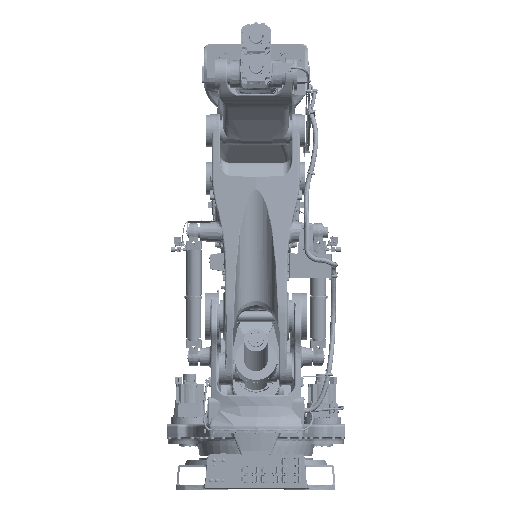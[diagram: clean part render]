
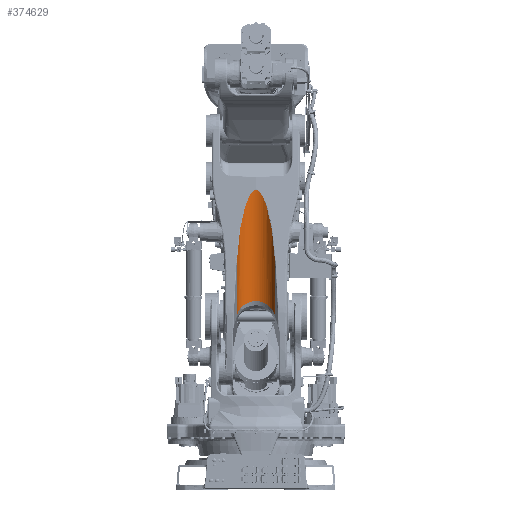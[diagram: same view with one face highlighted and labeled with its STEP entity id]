
A CAD part, front view. The second image highlights one B-rep face of the part: STEP entity #374629.
In plain terms, the highlighted cylindrical face has radius 150 mm (diameter 300 mm), a partial arc.
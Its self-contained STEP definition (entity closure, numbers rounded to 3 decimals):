
#370112=CARTESIAN_POINT('Vertex',(146.156,-217.886,391.657)) ;
#370399=CARTESIAN_POINT('Control Point',(146.156,-217.886,391.657)) ;
#370400=CARTESIAN_POINT('Control Point',(144.95,-216.008,415.815)) ;
#370401=CARTESIAN_POINT('Control Point',(143.502,-214.144,439.959)) ;
#370402=CARTESIAN_POINT('Control Point',(141.806,-212.294,464.09)) ;
#370403=CARTESIAN_POINT('Control Point',(137.45,-208.211,517.761)) ;
#370404=CARTESIAN_POINT('Control Point',(131.718,-204.21,571.306)) ;
#370405=CARTESIAN_POINT('Control Point',(128.113,-202.036,600.717)) ;
#370406=CARTESIAN_POINT('Control Point',(121.192,-198.42,650.257)) ;
#370407=CARTESIAN_POINT('Control Point',(112.594,-194.913,699.529)) ;
#370408=CARTESIAN_POINT('Control Point',(108.789,-193.508,719.513)) ;
#370409=CARTESIAN_POINT('Control Point',(101.44,-191.063,754.761)) ;
#370410=CARTESIAN_POINT('Control Point',(92.767,-188.712,789.7)) ;
#370411=CARTESIAN_POINT('Control Point',(88.721,-187.713,804.782)) ;
#370412=CARTESIAN_POINT('Control Point',(81.129,-186.022,830.795)) ;
#370413=CARTESIAN_POINT('Control Point',(72.273,-184.432,856.394)) ;
#370414=CARTESIAN_POINT('Control Point',(68.276,-183.782,867.097)) ;
#370415=CARTESIAN_POINT('Control Point',(60.923,-182.717,885.166)) ;
#370416=CARTESIAN_POINT('Control Point',(52.376,-181.76,902.682)) ;
#370417=CARTESIAN_POINT('Control Point',(48.617,-181.388,909.772)) ;
#370418=CARTESIAN_POINT('Control Point',(41.415,-180.775,922.119)) ;
#370419=CARTESIAN_POINT('Control Point',(33.003,-180.292,933.644)) ;
#370420=CARTESIAN_POINT('Control Point',(29.054,-180.112,938.467)) ;
#370421=CARTESIAN_POINT('Control Point',(22.266,-179.893,945.646)) ;
#370422=CARTESIAN_POINT('Control Point',(14.42,-179.832,951.552)) ;
#370423=CARTESIAN_POINT('Control Point',(11.373,-179.835,953.512)) ;
#370424=CARTESIAN_POINT('Control Point',(7.261,-179.88,955.644)) ;
#370425=CARTESIAN_POINT('Control Point',(2.921,-179.986,957.162)) ;
#370426=CARTESIAN_POINT('Control Point',(1.956,-180.013,957.464)) ;
#370427=CARTESIAN_POINT('Control Point',(0.982,-180.043,957.733)) ;
#370428=CARTESIAN_POINT('Control Point',(0.,-180.075,957.968)) ;
#370429=CARTESIAN_POINT('Vertex',(0.,-180.075,957.968)) ;
#374524=CARTESIAN_POINT('Line Origine',(146.156,-190.34,195.657)) ;
#374528=CARTESIAN_POINT('Vertex',(146.156,-162.794,-0.342)) ;
#374544=CARTESIAN_POINT('Axis2P3D Location',(0.,-196.514,-2.858)) ;
#374550=CARTESIAN_POINT('Control Point',(-146.155,-217.886,391.658)) ;
#374551=CARTESIAN_POINT('Control Point',(-144.95,-216.008,415.815)) ;
#374552=CARTESIAN_POINT('Control Point',(-143.502,-214.144,439.96)) ;
#374553=CARTESIAN_POINT('Control Point',(-141.806,-212.294,464.09)) ;
#374554=CARTESIAN_POINT('Control Point',(-137.45,-208.211,517.761)) ;
#374555=CARTESIAN_POINT('Control Point',(-131.718,-204.21,571.307)) ;
#374556=CARTESIAN_POINT('Control Point',(-128.113,-202.036,600.717)) ;
#374557=CARTESIAN_POINT('Control Point',(-121.192,-198.42,650.258)) ;
#374558=CARTESIAN_POINT('Control Point',(-112.594,-194.913,699.529)) ;
#374559=CARTESIAN_POINT('Control Point',(-108.789,-193.508,719.513)) ;
#374560=CARTESIAN_POINT('Control Point',(-101.44,-191.063,754.761)) ;
#374561=CARTESIAN_POINT('Control Point',(-92.767,-188.712,789.7)) ;
#374562=CARTESIAN_POINT('Control Point',(-88.721,-187.713,804.782)) ;
#374563=CARTESIAN_POINT('Control Point',(-81.129,-186.022,830.795)) ;
#374564=CARTESIAN_POINT('Control Point',(-72.273,-184.432,856.394)) ;
#374565=CARTESIAN_POINT('Control Point',(-68.276,-183.782,867.097)) ;
#374566=CARTESIAN_POINT('Control Point',(-60.923,-182.717,885.166)) ;
#374567=CARTESIAN_POINT('Control Point',(-52.376,-181.76,902.682)) ;
#374568=CARTESIAN_POINT('Control Point',(-48.617,-181.388,909.773)) ;
#374569=CARTESIAN_POINT('Control Point',(-41.415,-180.775,922.12)) ;
#374570=CARTESIAN_POINT('Control Point',(-33.003,-180.292,933.644)) ;
#374571=CARTESIAN_POINT('Control Point',(-29.054,-180.112,938.467)) ;
#374572=CARTESIAN_POINT('Control Point',(-22.265,-179.893,945.646)) ;
#374573=CARTESIAN_POINT('Control Point',(-14.42,-179.832,951.552)) ;
#374574=CARTESIAN_POINT('Control Point',(-11.373,-179.835,953.512)) ;
#374575=CARTESIAN_POINT('Control Point',(-7.261,-179.88,955.644)) ;
#374576=CARTESIAN_POINT('Control Point',(-2.921,-179.986,957.162)) ;
#374577=CARTESIAN_POINT('Control Point',(-1.956,-180.013,957.464)) ;
#374578=CARTESIAN_POINT('Control Point',(-0.982,-180.043,957.733)) ;
#374579=CARTESIAN_POINT('Control Point',(0.,-180.075,957.968)) ;
#374580=CARTESIAN_POINT('Vertex',(-146.155,-217.886,391.658)) ;
#374583=CARTESIAN_POINT('Line Origine',(-146.155,-163.1,1.838)) ;
#374587=CARTESIAN_POINT('Vertex',(-146.155,-162.794,-0.342)) ;
#374591=CARTESIAN_POINT('Control Point',(146.156,-162.794,-0.342)) ;
#374592=CARTESIAN_POINT('Control Point',(144.355,-156.004,7.396)) ;
#374593=CARTESIAN_POINT('Control Point',(142.022,-149.276,15.064)) ;
#374594=CARTESIAN_POINT('Control Point',(139.15,-142.634,22.634)) ;
#374595=CARTESIAN_POINT('Control Point',(131.065,-127.218,40.205)) ;
#374596=CARTESIAN_POINT('Control Point',(119.836,-112.657,56.8)) ;
#374597=CARTESIAN_POINT('Control Point',(112.276,-104.631,65.947)) ;
#374598=CARTESIAN_POINT('Control Point',(98.024,-92.287,80.016)) ;
#374599=CARTESIAN_POINT('Control Point',(80.788,-81.804,91.964)) ;
#374600=CARTESIAN_POINT('Control Point',(73.592,-78.035,96.259)) ;
#374601=CARTESIAN_POINT('Control Point',(59.285,-71.707,103.472)) ;
#374602=CARTESIAN_POINT('Control Point',(43.639,-66.976,108.864)) ;
#374603=CARTESIAN_POINT('Control Point',(36.078,-65.156,110.938)) ;
#374604=CARTESIAN_POINT('Control Point',(18.852,-62.065,114.461)) ;
#374605=CARTESIAN_POINT('Control Point',(1.017,-61.185,115.463)) ;
#374606=CARTESIAN_POINT('Control Point',(-8.821,-61.41,115.207)) ;
#374607=CARTESIAN_POINT('Control Point',(-26.674,-63.103,113.277)) ;
#374608=CARTESIAN_POINT('Control Point',(-43.697,-66.976,108.864)) ;
#374609=CARTESIAN_POINT('Control Point',(-51.201,-69.161,106.373)) ;
#374610=CARTESIAN_POINT('Control Point',(-66.795,-74.704,100.055)) ;
#374611=CARTESIAN_POINT('Control Point',(-80.873,-81.815,91.951)) ;
#374612=CARTESIAN_POINT('Control Point',(-87.962,-86.025,87.153)) ;
#374613=CARTESIAN_POINT('Control Point',(-107.356,-99.356,71.96)) ;
#374614=CARTESIAN_POINT('Control Point',(-122.476,-115.047,54.076)) ;
#374615=CARTESIAN_POINT('Control Point',(-130.611,-126.08,41.502)) ;
#374616=CARTESIAN_POINT('Control Point',(-138.445,-140.154,25.461)) ;
#374617=CARTESIAN_POINT('Control Point',(-143.736,-154.67,8.916)) ;
#374618=CARTESIAN_POINT('Control Point',(-144.628,-157.367,5.843)) ;
#374619=CARTESIAN_POINT('Control Point',(-145.434,-160.075,2.756)) ;
#374620=CARTESIAN_POINT('Control Point',(-146.155,-162.794,-0.342)) ;
#374525=DIRECTION('Vector Direction',(0.,-0.139,0.99)) ;
#374545=DIRECTION('Axis2P3D Direction',(0.,0.139,-0.99)) ;
#374546=DIRECTION('Axis2P3D XDirection',(-0.974,0.223,0.031)) ;
#374584=DIRECTION('Vector Direction',(0.,0.139,-0.99)) ;
#374547=AXIS2_PLACEMENT_3D('Cylinder Axis2P3D',#374544,#374545,#374546) ;
#374623=ORIENTED_EDGE('',*,*,#370431,.T.) ;
#374624=ORIENTED_EDGE('',*,*,#374582,.T.) ;
#374625=ORIENTED_EDGE('',*,*,#374589,.F.) ;
#374626=ORIENTED_EDGE('',*,*,#374621,.T.) ;
#374627=ORIENTED_EDGE('',*,*,#374530,.T.) ;
#374526=VECTOR('Line Direction',#374525,1.) ;
#374585=VECTOR('Line Direction',#374584,1.) ;
#374629=ADVANCED_FACE('Subarm1',(#374628),#374548,.F.) ;
#370398=B_SPLINE_CURVE_WITH_KNOTS('',5,(#370399,#370400,#370401,#370402,#370403,#370404,#370405,#370406,#370407,#370408,#370409,#370410,#370411,#370412,#370413,#370414,#370415,#370416,#370417,#370418,#370419,#370420,#370421,#370422,#370423,#370424,#370425,#370426,#370427,#370428),.UNSPECIFIED.,.F.,.U.,(6,3,3,3,3,3,3,3,3,6),(807.31,979.028,1189.47,1333.961,1444.955,1526.247,1583.398,1627.72,1653.456,1660.713),.UNSPECIFIED.) ;
#374549=B_SPLINE_CURVE_WITH_KNOTS('',5,(#374550,#374551,#374552,#374553,#374554,#374555,#374556,#374557,#374558,#374559,#374560,#374561,#374562,#374563,#374564,#374565,#374566,#374567,#374568,#374569,#374570,#374571,#374572,#374573,#374574,#374575,#374576,#374577,#374578,#374579),.UNSPECIFIED.,.F.,.U.,(6,3,3,3,3,3,3,3,3,6),(807.311,979.029,1189.471,1333.961,1444.956,1526.248,1583.398,1627.72,1653.456,1660.713),.UNSPECIFIED.) ;
#374590=B_SPLINE_CURVE_WITH_KNOTS('',5,(#374591,#374592,#374593,#374594,#374595,#374596,#374597,#374598,#374599,#374600,#374601,#374602,#374603,#374604,#374605,#374606,#374607,#374608,#374609,#374610,#374611,#374612,#374613,#374614,#374615,#374616,#374617,#374618,#374619,#374620),.UNSPECIFIED.,.F.,.U.,(6,3,3,3,3,3,3,3,3,6),(63.291,137.189,237.891,302.592,359.253,428.362,486.11,553.288,683.731,713.316),.UNSPECIFIED.) ;
#374548=CYLINDRICAL_SURFACE('generated cylinder',#374547,150.) ;
#370431=EDGE_CURVE('',#370113,#370430,#370398,.T.) ;
#374530=EDGE_CURVE('',#374529,#370113,#374527,.T.) ;
#374582=EDGE_CURVE('',#370430,#374581,#374549,.F.) ;
#374589=EDGE_CURVE('',#374588,#374581,#374586,.F.) ;
#374621=EDGE_CURVE('',#374588,#374529,#374590,.F.) ;
#374622=EDGE_LOOP('',(#374623,#374624,#374625,#374626,#374627)) ;
#374628=FACE_OUTER_BOUND('',#374622,.T.) ;
#374527=LINE('Line',#374524,#374526) ;
#374586=LINE('Line',#374583,#374585) ;
#370113=VERTEX_POINT('',#370112) ;
#370430=VERTEX_POINT('',#370429) ;
#374529=VERTEX_POINT('',#374528) ;
#374581=VERTEX_POINT('',#374580) ;
#374588=VERTEX_POINT('',#374587) ;
